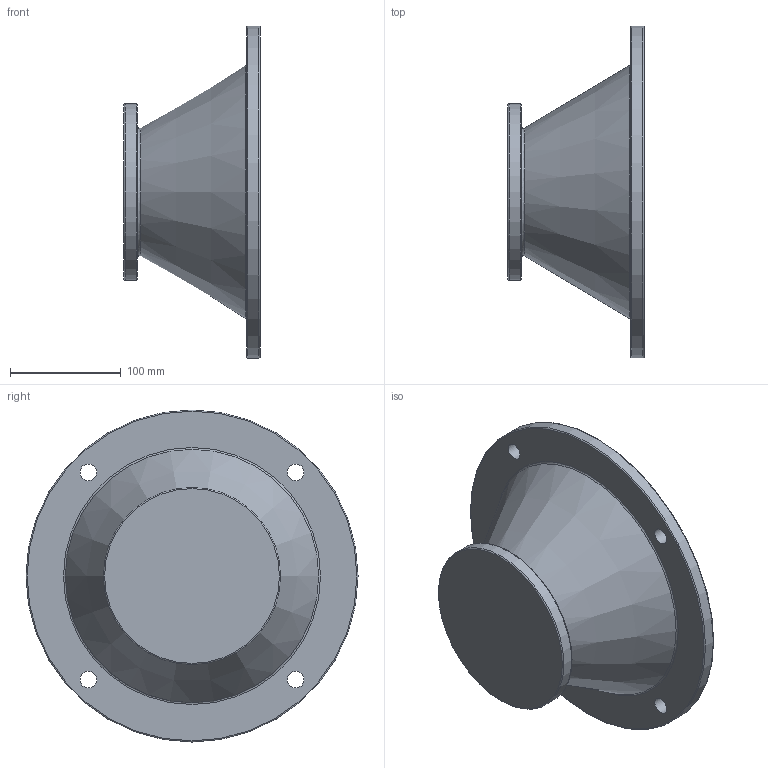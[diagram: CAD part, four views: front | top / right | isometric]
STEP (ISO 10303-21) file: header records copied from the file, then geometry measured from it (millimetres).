
FILE_DESCRIPTION((''),'2;1');
FILE_NAME('D:\PAWEŁ\ZLECENIA\DualSystem\001 Modele\DKAB60_\DK_60_STEP\132_B5_L123.stp','2011-11-25T00:13:15',('Pawe'),(''),'Autodesk Inventor 2009','Autodesk Inventor 2009','');
FILE_SCHEMA(('AUTOMOTIVE_DESIGN { 1 0 10303 214 1 1 1 1 }'));
Length unit declared in the file: millimetre
Products named in the file (1): 132_B5_L123
Bounding box: 123 x 300 x 300 mm (x, y, z)
Volume: 1129936.8 mm3; surface area: 267276.7 mm2
Topology: 1 solids, 1 shells, 29 faces, 56 edges, 35 vertices
Faces by surface type: plane 11, bspline 6, cylinder 5, torus 5, cone 2
Full cylindrical faces by diameter (mm): 64 x1, 160 x1, 230 x1, 300 x1
Entity records: 875 total; most frequent: CARTESIAN_POINT 278, DIRECTION 116, ORIENTED_EDGE 78, EDGE_LOOP 60, AXIS2_PLACEMENT_3D 53, EDGE_CURVE 39, VERTEX_POINT 35, FACE_BOUND 31
